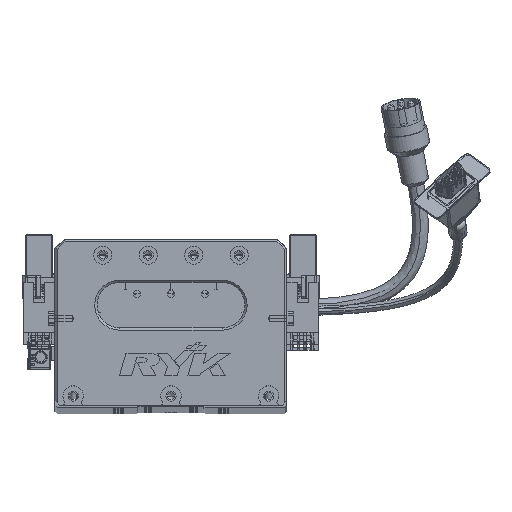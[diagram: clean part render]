
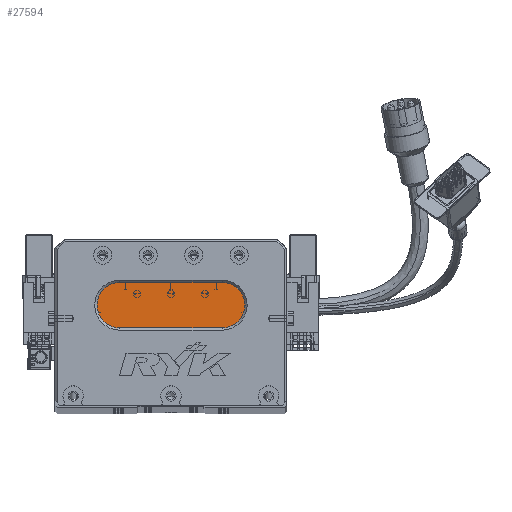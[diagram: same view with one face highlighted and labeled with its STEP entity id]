
A CAD part, top view. The second image highlights one B-rep face of the part: STEP entity #27594.
In plain terms, the highlighted planar face has unit normal (0, 0, 1) as drawn and (0, 0, -1) by its records, which use the part's own axes.
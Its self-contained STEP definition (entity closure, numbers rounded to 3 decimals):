
#1297 = CARTESIAN_POINT ( 'NONE',  ( 28.5, 54., 13. ) ) ;
#3115 = FACE_OUTER_BOUND ( 'NONE', #14715, .T. ) ;
#3396 = ORIENTED_EDGE ( 'NONE', *, *, #18421, .T. ) ;
#4087 = DIRECTION ( 'NONE',  ( -1., 0., 0. ) ) ;
#4671 = CARTESIAN_POINT ( 'NONE',  ( 73.5, 34., 13. ) ) ;
#5042 = DIRECTION ( 'NONE',  ( 1., 0., 0. ) ) ;
#5558 = CARTESIAN_POINT ( 'NONE',  ( 73.5, 54., 13. ) ) ;
#7575 = CARTESIAN_POINT ( 'NONE',  ( 28.5, 44., 13. ) ) ;
#8171 = CARTESIAN_POINT ( 'NONE',  ( 28.5, 44., 13. ) ) ;
#8938 = CIRCLE ( 'NONE', #30892, 10. ) ;
#10474 = AXIS2_PLACEMENT_3D ( 'NONE', #8171, #13090, #37434 ) ;
#10711 = CARTESIAN_POINT ( 'NONE',  ( 73.5, 54., 13. ) ) ;
#13046 = VERTEX_POINT ( 'NONE', #4671 ) ;
#13090 = DIRECTION ( 'NONE',  ( 0., 0., -1. ) ) ;
#14715 = EDGE_LOOP ( 'NONE', ( #32897, #38474, #35048, #3396, #50153 ) ) ;
#16618 = DIRECTION ( 'NONE',  ( -1., 0., 0. ) ) ;
#17880 = AXIS2_PLACEMENT_3D ( 'NONE', #23641, #70667, #65187 ) ;
#18421 = EDGE_CURVE ( 'NONE', #62848, #31331, #67808, .T. ) ;
#21719 = PLANE ( 'NONE',  #57777 ) ;
#23641 = CARTESIAN_POINT ( 'NONE',  ( 73.5, 44., 13. ) ) ;
#24701 = VERTEX_POINT ( 'NONE', #38842 ) ;
#27594 = ADVANCED_FACE ( 'NONE', ( #3115 ), #21719, .T. ) ;
#30892 = AXIS2_PLACEMENT_3D ( 'NONE', #7575, #43594, #49040 ) ;
#31331 = VERTEX_POINT ( 'NONE', #1297 ) ;
#32897 = ORIENTED_EDGE ( 'NONE', *, *, #48382, .T. ) ;
#35048 = ORIENTED_EDGE ( 'NONE', *, *, #60143, .T. ) ;
#37434 = DIRECTION ( 'NONE',  ( -1., 0., 0. ) ) ;
#38474 = ORIENTED_EDGE ( 'NONE', *, *, #67597, .T. ) ;
#38842 = CARTESIAN_POINT ( 'NONE',  ( 28.5, 34., 13. ) ) ;
#39685 = LINE ( 'NONE', #5558, #47147 ) ;
#41750 = CIRCLE ( 'NONE', #17880, 10. ) ;
#43594 = DIRECTION ( 'NONE',  ( 0., 0., -1. ) ) ;
#45488 = LINE ( 'NONE', #64342, #55731 ) ;
#47147 = VECTOR ( 'NONE', #5042, 1000. ) ;
#48382 = EDGE_CURVE ( 'NONE', #59892, #13046, #41750, .T. ) ;
#49040 = DIRECTION ( 'NONE',  ( -1., 0., 0. ) ) ;
#50153 = ORIENTED_EDGE ( 'NONE', *, *, #56502, .T. ) ;
#55731 = VECTOR ( 'NONE', #16618, 1000. ) ;
#56502 = EDGE_CURVE ( 'NONE', #31331, #59892, #39685, .T. ) ;
#57552 = CARTESIAN_POINT ( 'NONE',  ( 73.5, 44., 13. ) ) ;
#57777 = AXIS2_PLACEMENT_3D ( 'NONE', #57552, #69498, #4087 ) ;
#59892 = VERTEX_POINT ( 'NONE', #10711 ) ;
#60143 = EDGE_CURVE ( 'NONE', #24701, #62848, #8938, .T. ) ;
#62848 = VERTEX_POINT ( 'NONE', #63307 ) ;
#63307 = CARTESIAN_POINT ( 'NONE',  ( 18.5, 44., 13. ) ) ;
#64342 = CARTESIAN_POINT ( 'NONE',  ( 73.5, 34., 13. ) ) ;
#65187 = DIRECTION ( 'NONE',  ( -1., 0., 0. ) ) ;
#67597 = EDGE_CURVE ( 'NONE', #13046, #24701, #45488, .T. ) ;
#67808 = CIRCLE ( 'NONE', #10474, 10. ) ;
#69498 = DIRECTION ( 'NONE',  ( 0., 0., -1. ) ) ;
#70667 = DIRECTION ( 'NONE',  ( 0., 0., -1. ) ) ;
